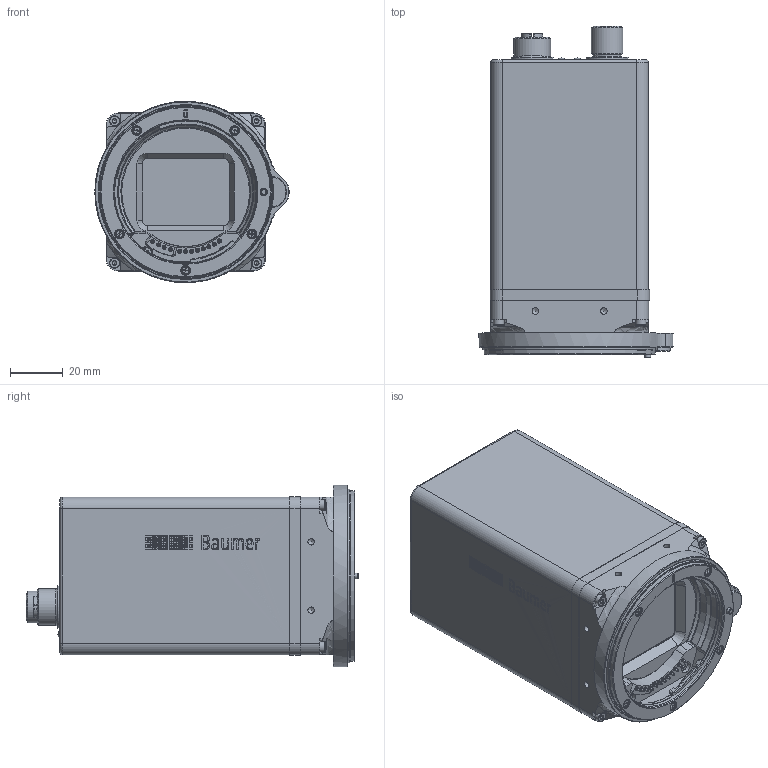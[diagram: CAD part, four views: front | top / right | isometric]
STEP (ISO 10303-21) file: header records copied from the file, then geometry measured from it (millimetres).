
FILE_DESCRIPTION(/* description */ ('CAx-IF Rec.Pracs.---Representation and Presentation of Product Manufacturing Information (PMI)---4.0---2014-10-13','CAx-IF Rec.Pracs.---3D Tessellated Geometry---0.4---2014-09-14','2;1'),/* implementation_level */ '2;1');
FILE_NAME(/* name */ 'VLXT-650x.I.RF',/* time_stamp */ '2026-03-16T12:00:50+01:00',/* author */ (''),/* organization */ ('Baumer'),/* preprocessor_version */ 'ST-DEVELOPER v19.4',/* originating_system */ 'Solid Edge',/* authorisation */ 'Unknown');
FILE_SCHEMA (('AP242_MANAGED_MODEL_BASED_3D_ENGINEERING_MIM_LF { 1 0 10303 442 1 1 4 }'));
Products named in the file (1): Part11
Bounding box: 73.83 x 126.2 x 69 mm (x, y, z)
Volume: 371074.2 mm3; surface area: 46029.1 mm2
Topology: 1 solids, 1 shells, 2397 faces, 5847 edges, 3817 vertices
Faces by surface type: plane 1167, cylinder 859, cone 213, torus 103, sphere 34, bspline 21
Full cylindrical faces by diameter (mm): 0.25 x16, 0.306 x20, 0.385 x20, 0.464 x20, 0.542 x20, 0.621 x20, 0.63 x12, 0.699 x20, 0.7 x8, 0.778 x20, 0.856 x20, 1.07 x24, 1.24 x8, 1.5 x12, 1.83 x12, 2 x10, 2.05 x5, 2.187 x1, 2.2 x6, 2.4 x1, 2.459 x18, 2.5 x2, 2.6 x4, 3 x5, 3.3 x5, 3.4 x2, 3.98 x6, 8 x1, 8.25 x1, 8.3 x1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
Entity records: 68631 total; most frequent: CARTESIAN_POINT 13747, DIRECTION 11659, ORIENTED_EDGE 10328, EDGE_CURVE 5164, AXIS2_PLACEMENT_3D 4478, VERTEX_POINT 3693, FACE_BOUND 3437, EDGE_LOOP 3421
